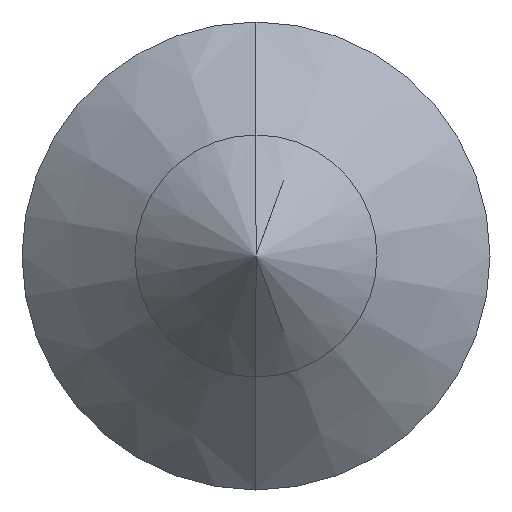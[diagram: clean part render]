
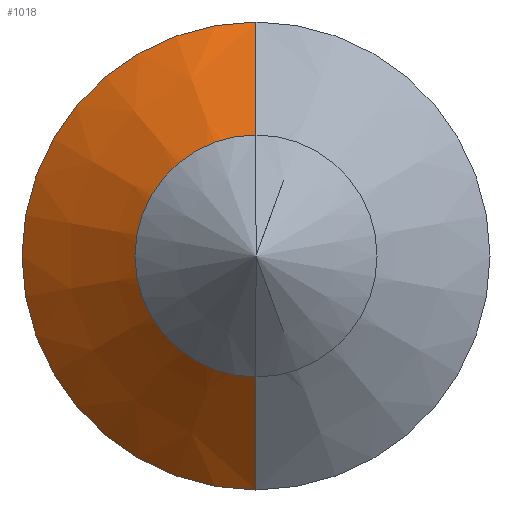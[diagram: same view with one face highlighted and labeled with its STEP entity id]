
A CAD part, left-side view. The second image highlights one B-rep face of the part: STEP entity #1018.
In plain terms, the highlighted conical face has half-angle 48.541 degrees and reference radius 2.9 mm.
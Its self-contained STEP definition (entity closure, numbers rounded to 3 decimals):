
#45 = EDGE_CURVE ( 'NONE', #1065, #1040, #603, .T. ) ;
#54 = EDGE_CURVE ( 'NONE', #1098, #1040, #614, .T. ) ;
#58 = EDGE_CURVE ( 'NONE', #1054, #1098, #598, .T. ) ;
#64 = EDGE_CURVE ( 'NONE', #1054, #1065, #595, .T. ) ;
#200 = CARTESIAN_POINT ( 'NONE',  ( -6.345, 0., 0. ) ) ;
#281 = DIRECTION ( 'NONE',  ( 0.662, 0., 0.749 ) ) ;
#286 = DIRECTION ( 'NONE',  ( -1., 0., 0. ) ) ;
#321 = CARTESIAN_POINT ( 'NONE',  ( -7.845, 0., -1.202 ) ) ;
#519 = EDGE_LOOP ( 'NONE', ( #1308, #1007, #1252, #983 ) ) ;
#529 = DIRECTION ( 'NONE',  ( 0., 0., 1. ) ) ;
#535 = CARTESIAN_POINT ( 'NONE',  ( -6.345, 0., 0. ) ) ;
#576 = DIRECTION ( 'NONE',  ( 0., 0., -1. ) ) ;
#583 = CARTESIAN_POINT ( 'NONE',  ( -6.345, 0., -2.9 ) ) ;
#594 = VECTOR ( 'NONE', #281, 1000. ) ;
#595 = CIRCLE ( 'NONE', #819, 1.202 ) ;
#598 = LINE ( 'NONE', #1032, #594 ) ;
#600 = VECTOR ( 'NONE', #1496, 1000. ) ;
#603 = LINE ( 'NONE', #636, #600 ) ;
#614 = CIRCLE ( 'NONE', #739, 2.9 ) ;
#633 = AXIS2_PLACEMENT_3D ( 'NONE', #200, #979, #576 ) ;
#636 = CARTESIAN_POINT ( 'NONE',  ( -6.345, 0., -2.9 ) ) ;
#651 = CARTESIAN_POINT ( 'NONE',  ( -7.845, 0., 0. ) ) ;
#739 = AXIS2_PLACEMENT_3D ( 'NONE', #535, #286, #905 ) ;
#819 = AXIS2_PLACEMENT_3D ( 'NONE', #651, #1242, #529 ) ;
#905 = DIRECTION ( 'NONE',  ( 0., 0., 1. ) ) ;
#939 = CARTESIAN_POINT ( 'NONE',  ( -7.845, 0., 1.202 ) ) ;
#979 = DIRECTION ( 'NONE',  ( 1., 0., 0. ) ) ;
#983 = ORIENTED_EDGE ( 'NONE', *, *, #45, .F. ) ;
#1007 = ORIENTED_EDGE ( 'NONE', *, *, #58, .T. ) ;
#1018 = ADVANCED_FACE ( 'NONE', ( #1410 ), #1385, .T. ) ;
#1032 = CARTESIAN_POINT ( 'NONE',  ( -6.345, 0., 2.9 ) ) ;
#1040 = VERTEX_POINT ( 'NONE', #583 ) ;
#1054 = VERTEX_POINT ( 'NONE', #939 ) ;
#1065 = VERTEX_POINT ( 'NONE', #321 ) ;
#1098 = VERTEX_POINT ( 'NONE', #1357 ) ;
#1242 = DIRECTION ( 'NONE',  ( -1., 0., 0. ) ) ;
#1252 = ORIENTED_EDGE ( 'NONE', *, *, #54, .T. ) ;
#1308 = ORIENTED_EDGE ( 'NONE', *, *, #64, .F. ) ;
#1357 = CARTESIAN_POINT ( 'NONE',  ( -6.345, 0., 2.9 ) ) ;
#1385 = CONICAL_SURFACE ( 'NONE', #633, 2.9, 0.847 ) ;
#1410 = FACE_OUTER_BOUND ( 'NONE', #519, .T. ) ;
#1496 = DIRECTION ( 'NONE',  ( 0.662, 0., -0.749 ) ) ;
